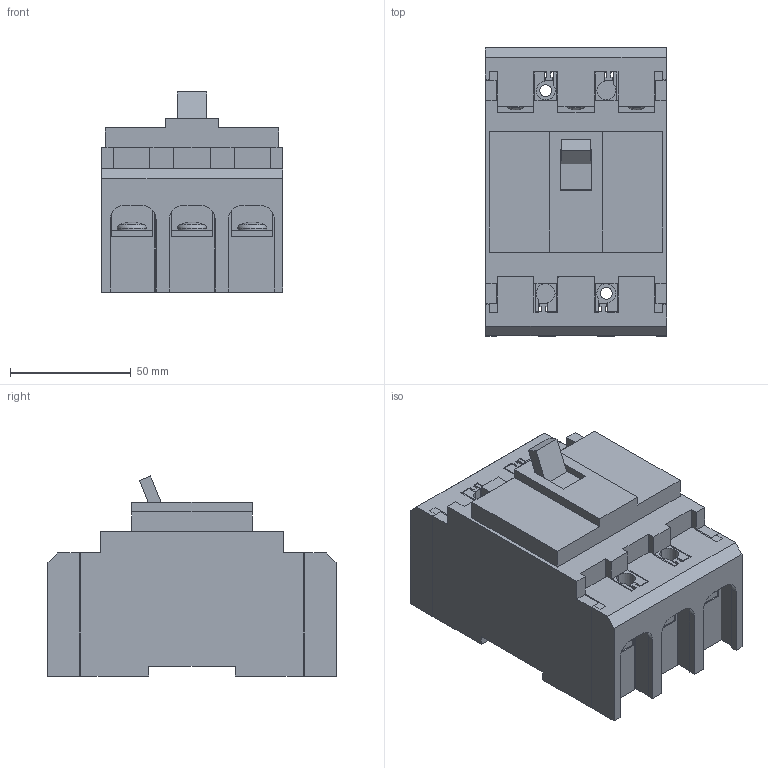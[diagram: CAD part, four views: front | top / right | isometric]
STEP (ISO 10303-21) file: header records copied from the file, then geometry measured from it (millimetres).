
FILE_DESCRIPTION( ( '' ), '1' );
FILE_NAME( 'E:/D&C電子外形図_3D/step/BW100EAGU-3P.stp', '2012-10-19T05:14:37', ( '' ), ( '' ), ' ', ' ', ' ' );
FILE_SCHEMA( ( 'automotive_design' ) );
Length unit declared in the file: millimetre
Products named in the file (10): 1; 2; 3; 4; 5; 6; 7; 8; 9; 10
Bounding box: 75.2 x 119.4 x 82.91 mm (x, y, z)
Volume: 432291.2 mm3; surface area: 80988.7 mm2
Topology: 10 solids, 10 shells, 389 faces, 1038 edges, 690 vertices
Faces by surface type: plane 293, cylinder 72, sphere 12, torus 12
Entity records: 24027 total; most frequent: STYLED_ITEM 2127, PRESENTATION_STYLE_ASSIGNMENT 2127, CARTESIAN_POINT 2127, COLOUR_RGB 2127, ORIENTED_EDGE 2076, DIRECTION 2028, EDGE_CURVE 1038, CURVE_STYLE 1038
